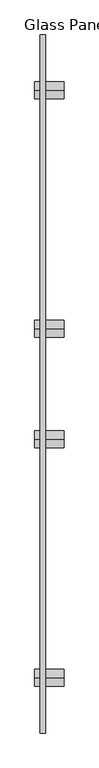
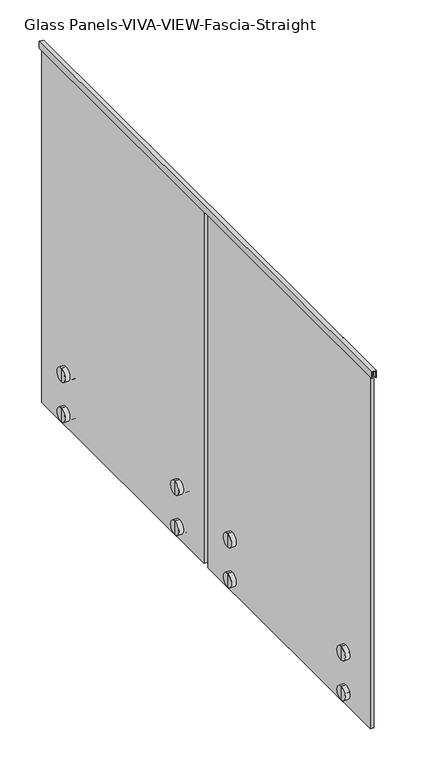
"""IFC4 building model written with IfcOpenShell, lengths in millimetres: railing geometry, Glass Panels-VIVA-VIEW-Fascia-Straight."""

from ifc_helpers import new_model, si_unit, frame, origin, place, context, project, spatial, polyline, circle_curve, outline, extrude, source, transform, mapped, element, save
from ifc_brep_helpers import plane_surface, cylinder_surface, advanced_brep


def glass_panels_viva_view_fascia_straight_721f6f93(model_context):
    return source(origin(), model_context, "Body", "SolidModel", [
        extrude(outline(polyline([(4140.2, 38813.9986652), (4140.2, 38798.1236652), (4114.8, 38798.1236652), (4114.8, 38799.7111652), (4138.6125, 38799.7111652), (4138.6125, 38812.4111652), (4114.8, 38812.4111652), (4114.8, 38813.9986652), (4140.2, 38813.9986652)])), frame((0.0, -1445.1241246, 0.0), z_axis=(0.0, 1.0, 0.0), x_axis=(0.0, 0.0, 1.0)), (0.0, 0.0, 1.0), 2082.8),
        advanced_brep(
        [(38782.2489592, -238.241078, 2794.0), (38782.2489592, -238.241078, 2819.4), (38782.2489592, -238.241078, 2844.8), (38799.7114592, -238.241078, 2794.0), (38799.7114592, -238.241078, 2844.8), (38799.7114592, -238.241078, 2813.685), (38799.7114592, -238.241078, 2825.115), (38812.4114592, -238.241078, 2813.685), (38812.4114592, -238.241078, 2825.115), (38812.4114592, -238.241078, 2794.0), (38812.4114592, -238.241078, 2844.8), (38869.5613122, -238.241078, 2794.0), (38869.5613122, -238.241078, 2844.8), (38869.5613122, -238.241078, 2819.4)],
        [
            (0, 1),
            (1, 2),
            (2, 0, circle_curve(frame((38782.2489592, -238.241078, 2819.4), z_axis=(-1.0, 0.0, 0.0), x_axis=(0.0, 0.0, 1.0)), 25.4)),
            (0, 2, circle_curve(frame((38782.2489592, -238.241078, 2819.4), z_axis=(-1.0, 0.0, 0.0), x_axis=(0.0, 0.0, 1.0)), 25.4)),
            (3, 0),
            (2, 4),
            (4, 3, circle_curve(frame((38799.7114592, -238.241078, 2819.4), z_axis=(-1.0, 0.0, 0.0), x_axis=(0.0, 0.0, 1.0)), 25.4)),
            (3, 4, circle_curve(frame((38799.7114592, -238.241078, 2819.4), z_axis=(-1.0, 0.0, 0.0), x_axis=(0.0, 0.0, 1.0)), 25.4)),
            (5, 3),
            (4, 6),
            (6, 5, circle_curve(frame((38799.7114592, -238.241078, 2819.4), z_axis=(-1.0, 0.0, 0.0), x_axis=(0.0, 0.0, 1.0)), 5.715)),
            (5, 6, circle_curve(frame((38799.7114592, -238.241078, 2819.4), z_axis=(-1.0, 0.0, 0.0), x_axis=(0.0, 0.0, 1.0)), 5.715)),
            (7, 5),
            (6, 8),
            (8, 7, circle_curve(frame((38812.4114592, -238.241078, 2819.4), z_axis=(-1.0, 0.0, 0.0), x_axis=(0.0, 0.0, 1.0)), 5.715)),
            (7, 8, circle_curve(frame((38812.4114592, -238.241078, 2819.4), z_axis=(-1.0, 0.0, 0.0), x_axis=(0.0, 0.0, 1.0)), 5.715)),
            (9, 7),
            (8, 10),
            (10, 9, circle_curve(frame((38812.4114592, -238.241078, 2819.4), z_axis=(-1.0, 0.0, 0.0), x_axis=(0.0, 0.0, 1.0)), 25.4)),
            (9, 10, circle_curve(frame((38812.4114592, -238.241078, 2819.4), z_axis=(-1.0, 0.0, 0.0), x_axis=(0.0, 0.0, 1.0)), 25.4)),
            (11, 9),
            (10, 12),
            (12, 11, circle_curve(frame((38869.5613122, -238.241078, 2819.4), z_axis=(-1.0, 0.0, 0.0), x_axis=(0.0, 0.0, 1.0)), 25.4)),
            (11, 12, circle_curve(frame((38869.5613122, -238.241078, 2819.4), z_axis=(-1.0, 0.0, 0.0), x_axis=(0.0, 0.0, 1.0)), 25.4)),
            (13, 11),
            (12, 13),
        ],
        [
            plane_surface(frame((38782.2489592, -238.241078, 2819.4), z_axis=(-1.0, 0.0, 0.0), x_axis=(0.0, 0.0, 1.0))),
            cylinder_surface(frame((38713.9863122, -238.241078, 2819.4), z_axis=(1.0, 0.0, 0.0), x_axis=(0.0, 0.0, 1.0)), 25.4),
            plane_surface(frame((38799.7114592, -238.241078, 2819.4), z_axis=(1.0, 0.0, 0.0), x_axis=(0.0, 0.0, 1.0))),
            cylinder_surface(frame((38713.9863122, -238.241078, 2819.4), z_axis=(1.0, 0.0, 0.0), x_axis=(0.0, 0.0, 1.0)), 5.715),
            plane_surface(frame((38812.4114592, -238.241078, 2819.4), z_axis=(-1.0, 0.0, 0.0), x_axis=(0.0, 0.0, 1.0))),
            plane_surface(frame((38869.5613122, -238.241078, 2819.4), z_axis=(1.0, 0.0, 0.0), x_axis=(0.0, 0.0, 1.0))),
        ],
        [
            (0, [[1, 2, 3]]),
            (0, [[-2, -1, 4]]),
            (1, [[5, -3, 6, 7]]),
            (1, [[-6, -4, -5, 8]]),
            (2, [[9, -7, 10, 11]]),
            (2, [[-10, -8, -9, 12]]),
            (3, [[13, -11, 14, 15]]),
            (3, [[-14, -12, -13, 16]]),
            (4, [[17, -15, 18, 19]]),
            (4, [[-18, -16, -17, 20]]),
            (1, [[21, -19, 22, 23]]),
            (1, [[-22, -20, -21, 24]]),
            (5, [[25, -23, 26]]),
            (5, [[-26, -24, -25]]),
        ],
    ),
        advanced_brep(
        [(38799.7114592, -238.241078, 2966.085), (38799.7114592, -238.241078, 2946.4), (38799.7114592, -238.241078, 2997.2), (38799.7114592, -238.241078, 2977.515), (38812.4114592, -238.241078, 2966.085), (38812.4114592, -238.241078, 2977.515), (38812.4114592, -238.241078, 2946.4), (38812.4114592, -238.241078, 2997.2), (38869.5613122, -238.241078, 2946.4), (38869.5613122, -238.241078, 2997.2), (38869.5613122, -238.241078, 2971.8), (38782.2489592, -238.241078, 2946.4), (38782.2489592, -238.241078, 2971.8), (38782.2489592, -238.241078, 2997.2)],
        [
            (0, 1),
            (1, 2, circle_curve(frame((38799.7114592, -238.241078, 2971.8), z_axis=(1.0, 0.0, 0.0), x_axis=(0.0, 0.0, 1.0)), 25.4)),
            (2, 3),
            (3, 0, circle_curve(frame((38799.7114592, -238.241078, 2971.8), z_axis=(-1.0, 0.0, 0.0), x_axis=(0.0, 0.0, 1.0)), 5.715)),
            (2, 1, circle_curve(frame((38799.7114592, -238.241078, 2971.8), z_axis=(1.0, 0.0, 0.0), x_axis=(0.0, 0.0, 1.0)), 25.4)),
            (0, 3, circle_curve(frame((38799.7114592, -238.241078, 2971.8), z_axis=(-1.0, 0.0, 0.0), x_axis=(0.0, 0.0, 1.0)), 5.715)),
            (4, 0),
            (3, 5),
            (5, 4, circle_curve(frame((38812.4114592, -238.241078, 2971.8), z_axis=(-1.0, 0.0, 0.0), x_axis=(0.0, 0.0, 1.0)), 5.715)),
            (4, 5, circle_curve(frame((38812.4114592, -238.241078, 2971.8), z_axis=(-1.0, 0.0, 0.0), x_axis=(0.0, 0.0, 1.0)), 5.715)),
            (6, 4),
            (5, 7),
            (7, 6, circle_curve(frame((38812.4114592, -238.241078, 2971.8), z_axis=(-1.0, 0.0, 0.0), x_axis=(0.0, 0.0, 1.0)), 25.4)),
            (6, 7, circle_curve(frame((38812.4114592, -238.241078, 2971.8), z_axis=(-1.0, 0.0, 0.0), x_axis=(0.0, 0.0, 1.0)), 25.4)),
            (8, 6),
            (7, 9),
            (9, 8, circle_curve(frame((38869.5613122, -238.241078, 2971.8), z_axis=(-1.0, 0.0, 0.0), x_axis=(0.0, 0.0, 1.0)), 25.4)),
            (8, 9, circle_curve(frame((38869.5613122, -238.241078, 2971.8), z_axis=(-1.0, 0.0, 0.0), x_axis=(0.0, 0.0, 1.0)), 25.4)),
            (10, 8),
            (9, 10),
            (11, 12),
            (12, 13),
            (13, 11, circle_curve(frame((38782.2489592, -238.241078, 2971.8), z_axis=(-1.0, 0.0, 0.0), x_axis=(0.0, 0.0, 1.0)), 25.4)),
            (11, 13, circle_curve(frame((38782.2489592, -238.241078, 2971.8), z_axis=(-1.0, 0.0, 0.0), x_axis=(0.0, 0.0, 1.0)), 25.4)),
            (1, 11),
            (13, 2),
        ],
        [
            plane_surface(frame((38799.7114592, -238.241078, 2971.8), z_axis=(1.0, 0.0, 0.0), x_axis=(0.0, 0.0, 1.0))),
            cylinder_surface(frame((38713.9863122, -238.241078, 2971.8), z_axis=(1.0, 0.0, 0.0), x_axis=(0.0, 0.0, 1.0)), 5.715),
            plane_surface(frame((38812.4114592, -238.241078, 2971.8), z_axis=(-1.0, 0.0, 0.0), x_axis=(0.0, 0.0, 1.0))),
            cylinder_surface(frame((38713.9863122, -238.241078, 2971.8), z_axis=(1.0, 0.0, 0.0), x_axis=(0.0, 0.0, 1.0)), 25.4),
            plane_surface(frame((38869.5613122, -238.241078, 2971.8), z_axis=(1.0, 0.0, 0.0), x_axis=(0.0, 0.0, 1.0))),
            plane_surface(frame((38782.2489592, -238.241078, 2971.8), z_axis=(-1.0, 0.0, 0.0), x_axis=(0.0, 0.0, 1.0))),
        ],
        [
            (0, [[1, 2, 3, 4]]),
            (0, [[-3, 5, -1, 6]]),
            (1, [[7, -4, 8, 9]]),
            (1, [[-8, -6, -7, 10]]),
            (2, [[11, -9, 12, 13]]),
            (2, [[-12, -10, -11, 14]]),
            (3, [[15, -13, 16, 17]]),
            (3, [[-16, -14, -15, 18]]),
            (4, [[19, -17, 20]]),
            (4, [[-20, -18, -19]]),
            (5, [[21, 22, 23]]),
            (5, [[-22, -21, 24]]),
            (3, [[25, -23, 26, -2]]),
            (3, [[-26, -24, -25, -5]]),
        ],
    ),
        advanced_brep(
        [(38782.2489592, 472.958922, 2794.0), (38782.2489592, 472.958922, 2819.4), (38782.2489592, 472.958922, 2844.8), (38799.7114592, 472.958922, 2794.0), (38799.7114592, 472.958922, 2844.8), (38799.7114592, 472.958922, 2813.685), (38799.7114592, 472.958922, 2825.115), (38812.4114592, 472.958922, 2813.685), (38812.4114592, 472.958922, 2825.115), (38812.4114592, 472.958922, 2794.0), (38812.4114592, 472.958922, 2844.8), (38869.5613122, 472.958922, 2794.0), (38869.5613122, 472.958922, 2844.8), (38869.5613122, 472.958922, 2819.4)],
        [
            (0, 1),
            (1, 2),
            (2, 0, circle_curve(frame((38782.2489592, 472.958922, 2819.4), z_axis=(-1.0, 0.0, 0.0), x_axis=(0.0, 0.0, 1.0)), 25.4)),
            (0, 2, circle_curve(frame((38782.2489592, 472.958922, 2819.4), z_axis=(-1.0, 0.0, 0.0), x_axis=(0.0, 0.0, 1.0)), 25.4)),
            (3, 0),
            (2, 4),
            (4, 3, circle_curve(frame((38799.7114592, 472.958922, 2819.4), z_axis=(-1.0, 0.0, 0.0), x_axis=(0.0, 0.0, 1.0)), 25.4)),
            (3, 4, circle_curve(frame((38799.7114592, 472.958922, 2819.4), z_axis=(-1.0, 0.0, 0.0), x_axis=(0.0, 0.0, 1.0)), 25.4)),
            (5, 3),
            (4, 6),
            (6, 5, circle_curve(frame((38799.7114592, 472.958922, 2819.4), z_axis=(-1.0, 0.0, 0.0), x_axis=(0.0, 0.0, 1.0)), 5.715)),
            (5, 6, circle_curve(frame((38799.7114592, 472.958922, 2819.4), z_axis=(-1.0, 0.0, 0.0), x_axis=(0.0, 0.0, 1.0)), 5.715)),
            (7, 5),
            (6, 8),
            (8, 7, circle_curve(frame((38812.4114592, 472.958922, 2819.4), z_axis=(-1.0, 0.0, 0.0), x_axis=(0.0, 0.0, 1.0)), 5.715)),
            (7, 8, circle_curve(frame((38812.4114592, 472.958922, 2819.4), z_axis=(-1.0, 0.0, 0.0), x_axis=(0.0, 0.0, 1.0)), 5.715)),
            (9, 7),
            (8, 10),
            (10, 9, circle_curve(frame((38812.4114592, 472.958922, 2819.4), z_axis=(-1.0, 0.0, 0.0), x_axis=(0.0, 0.0, 1.0)), 25.4)),
            (9, 10, circle_curve(frame((38812.4114592, 472.958922, 2819.4), z_axis=(-1.0, 0.0, 0.0), x_axis=(0.0, 0.0, 1.0)), 25.4)),
            (11, 9),
            (10, 12),
            (12, 11, circle_curve(frame((38869.5613122, 472.958922, 2819.4), z_axis=(-1.0, 0.0, 0.0), x_axis=(0.0, 0.0, 1.0)), 25.4)),
            (11, 12, circle_curve(frame((38869.5613122, 472.958922, 2819.4), z_axis=(-1.0, 0.0, 0.0), x_axis=(0.0, 0.0, 1.0)), 25.4)),
            (13, 11),
            (12, 13),
        ],
        [
            plane_surface(frame((38782.2489592, 472.958922, 2819.4), z_axis=(-1.0, 0.0, 0.0), x_axis=(0.0, 0.0, 1.0))),
            cylinder_surface(frame((38713.9863122, 472.958922, 2819.4), z_axis=(1.0, 0.0, 0.0), x_axis=(0.0, 0.0, 1.0)), 25.4),
            plane_surface(frame((38799.7114592, 472.958922, 2819.4), z_axis=(1.0, 0.0, 0.0), x_axis=(0.0, 0.0, 1.0))),
            cylinder_surface(frame((38713.9863122, 472.958922, 2819.4), z_axis=(1.0, 0.0, 0.0), x_axis=(0.0, 0.0, 1.0)), 5.715),
            plane_surface(frame((38812.4114592, 472.958922, 2819.4), z_axis=(-1.0, 0.0, 0.0), x_axis=(0.0, 0.0, 1.0))),
            plane_surface(frame((38869.5613122, 472.958922, 2819.4), z_axis=(1.0, 0.0, 0.0), x_axis=(0.0, 0.0, 1.0))),
        ],
        [
            (0, [[1, 2, 3]]),
            (0, [[-2, -1, 4]]),
            (1, [[5, -3, 6, 7]]),
            (1, [[-6, -4, -5, 8]]),
            (2, [[9, -7, 10, 11]]),
            (2, [[-10, -8, -9, 12]]),
            (3, [[13, -11, 14, 15]]),
            (3, [[-14, -12, -13, 16]]),
            (4, [[17, -15, 18, 19]]),
            (4, [[-18, -16, -17, 20]]),
            (1, [[21, -19, 22, 23]]),
            (1, [[-22, -20, -21, 24]]),
            (5, [[25, -23, 26]]),
            (5, [[-26, -24, -25]]),
        ],
    ),
        advanced_brep(
        [(38799.7114592, 472.958922, 2966.085), (38799.7114592, 472.958922, 2946.4), (38799.7114592, 472.958922, 2997.2), (38799.7114592, 472.958922, 2977.515), (38812.4114592, 472.958922, 2966.085), (38812.4114592, 472.958922, 2977.515), (38812.4114592, 472.958922, 2946.4), (38812.4114592, 472.958922, 2997.2), (38869.5613122, 472.958922, 2946.4), (38869.5613122, 472.958922, 2997.2), (38869.5613122, 472.958922, 2971.8), (38782.2489592, 472.958922, 2946.4), (38782.2489592, 472.958922, 2971.8), (38782.2489592, 472.958922, 2997.2)],
        [
            (0, 1),
            (1, 2, circle_curve(frame((38799.7114592, 472.958922, 2971.8), z_axis=(1.0, 0.0, 0.0), x_axis=(0.0, 0.0, 1.0)), 25.4)),
            (2, 3),
            (3, 0, circle_curve(frame((38799.7114592, 472.958922, 2971.8), z_axis=(-1.0, 0.0, 0.0), x_axis=(0.0, 0.0, 1.0)), 5.715)),
            (2, 1, circle_curve(frame((38799.7114592, 472.958922, 2971.8), z_axis=(1.0, 0.0, 0.0), x_axis=(0.0, 0.0, 1.0)), 25.4)),
            (0, 3, circle_curve(frame((38799.7114592, 472.958922, 2971.8), z_axis=(-1.0, 0.0, 0.0), x_axis=(0.0, 0.0, 1.0)), 5.715)),
            (4, 0),
            (3, 5),
            (5, 4, circle_curve(frame((38812.4114592, 472.958922, 2971.8), z_axis=(-1.0, 0.0, 0.0), x_axis=(0.0, 0.0, 1.0)), 5.715)),
            (4, 5, circle_curve(frame((38812.4114592, 472.958922, 2971.8), z_axis=(-1.0, 0.0, 0.0), x_axis=(0.0, 0.0, 1.0)), 5.715)),
            (6, 4),
            (5, 7),
            (7, 6, circle_curve(frame((38812.4114592, 472.958922, 2971.8), z_axis=(-1.0, 0.0, 0.0), x_axis=(0.0, 0.0, 1.0)), 25.4)),
            (6, 7, circle_curve(frame((38812.4114592, 472.958922, 2971.8), z_axis=(-1.0, 0.0, 0.0), x_axis=(0.0, 0.0, 1.0)), 25.4)),
            (8, 6),
            (7, 9),
            (9, 8, circle_curve(frame((38869.5613122, 472.958922, 2971.8), z_axis=(-1.0, 0.0, 0.0), x_axis=(0.0, 0.0, 1.0)), 25.4)),
            (8, 9, circle_curve(frame((38869.5613122, 472.958922, 2971.8), z_axis=(-1.0, 0.0, 0.0), x_axis=(0.0, 0.0, 1.0)), 25.4)),
            (10, 8),
            (9, 10),
            (11, 12),
            (12, 13),
            (13, 11, circle_curve(frame((38782.2489592, 472.958922, 2971.8), z_axis=(-1.0, 0.0, 0.0), x_axis=(0.0, 0.0, 1.0)), 25.4)),
            (11, 13, circle_curve(frame((38782.2489592, 472.958922, 2971.8), z_axis=(-1.0, 0.0, 0.0), x_axis=(0.0, 0.0, 1.0)), 25.4)),
            (1, 11),
            (13, 2),
        ],
        [
            plane_surface(frame((38799.7114592, 472.958922, 2971.8), z_axis=(1.0, 0.0, 0.0), x_axis=(0.0, 0.0, 1.0))),
            cylinder_surface(frame((38713.9863122, 472.958922, 2971.8), z_axis=(1.0, 0.0, 0.0), x_axis=(0.0, 0.0, 1.0)), 5.715),
            plane_surface(frame((38812.4114592, 472.958922, 2971.8), z_axis=(-1.0, 0.0, 0.0), x_axis=(0.0, 0.0, 1.0))),
            cylinder_surface(frame((38713.9863122, 472.958922, 2971.8), z_axis=(1.0, 0.0, 0.0), x_axis=(0.0, 0.0, 1.0)), 25.4),
            plane_surface(frame((38869.5613122, 472.958922, 2971.8), z_axis=(1.0, 0.0, 0.0), x_axis=(0.0, 0.0, 1.0))),
            plane_surface(frame((38782.2489592, 472.958922, 2971.8), z_axis=(-1.0, 0.0, 0.0), x_axis=(0.0, 0.0, 1.0))),
        ],
        [
            (0, [[1, 2, 3, 4]]),
            (0, [[-3, 5, -1, 6]]),
            (1, [[7, -4, 8, 9]]),
            (1, [[-8, -6, -7, 10]]),
            (2, [[11, -9, 12, 13]]),
            (2, [[-12, -10, -11, 14]]),
            (3, [[15, -13, 16, 17]]),
            (3, [[-16, -14, -15, 18]]),
            (4, [[19, -17, 20]]),
            (4, [[-20, -18, -19]]),
            (5, [[21, 22, 23]]),
            (5, [[-22, -21, 24]]),
            (3, [[25, -23, 26, -2]]),
            (3, [[-26, -24, -25, -5]]),
        ],
    ),
        extrude(outline(polyline([(38812.4111652, -390.641078), (38799.7111652, -390.641078), (38799.7111652, 625.358922), (38812.4111652, 625.358922), (38812.4111652, -390.641078)])), frame((0.0, 0.0, 2768.6), z_axis=(0.0, 0.0, 1.0), x_axis=(1.0, 0.0, 0.0)), (0.0, 0.0, 1.0), 1370.0125),
        advanced_brep(
        [(38782.2489592, -1279.641078, 2794.0), (38782.2489592, -1279.641078, 2819.4), (38782.2489592, -1279.641078, 2844.8), (38799.7114592, -1279.641078, 2794.0), (38799.7114592, -1279.641078, 2844.8), (38799.7114592, -1279.641078, 2813.685), (38799.7114592, -1279.641078, 2825.115), (38812.4114592, -1279.641078, 2813.685), (38812.4114592, -1279.641078, 2825.115), (38812.4114592, -1279.641078, 2794.0), (38812.4114592, -1279.641078, 2844.8), (38869.5613122, -1279.641078, 2794.0), (38869.5613122, -1279.641078, 2844.8), (38869.5613122, -1279.641078, 2819.4)],
        [
            (0, 1),
            (1, 2),
            (2, 0, circle_curve(frame((38782.2489592, -1279.641078, 2819.4), z_axis=(-1.0, 0.0, 0.0), x_axis=(0.0, 0.0, 1.0)), 25.4)),
            (0, 2, circle_curve(frame((38782.2489592, -1279.641078, 2819.4), z_axis=(-1.0, 0.0, 0.0), x_axis=(0.0, 0.0, 1.0)), 25.4)),
            (3, 0),
            (2, 4),
            (4, 3, circle_curve(frame((38799.7114592, -1279.641078, 2819.4), z_axis=(-1.0, 0.0, 0.0), x_axis=(0.0, 0.0, 1.0)), 25.4)),
            (3, 4, circle_curve(frame((38799.7114592, -1279.641078, 2819.4), z_axis=(-1.0, 0.0, 0.0), x_axis=(0.0, 0.0, 1.0)), 25.4)),
            (5, 3),
            (4, 6),
            (6, 5, circle_curve(frame((38799.7114592, -1279.641078, 2819.4), z_axis=(-1.0, 0.0, 0.0), x_axis=(0.0, 0.0, 1.0)), 5.715)),
            (5, 6, circle_curve(frame((38799.7114592, -1279.641078, 2819.4), z_axis=(-1.0, 0.0, 0.0), x_axis=(0.0, 0.0, 1.0)), 5.715)),
            (7, 5),
            (6, 8),
            (8, 7, circle_curve(frame((38812.4114592, -1279.641078, 2819.4), z_axis=(-1.0, 0.0, 0.0), x_axis=(0.0, 0.0, 1.0)), 5.715)),
            (7, 8, circle_curve(frame((38812.4114592, -1279.641078, 2819.4), z_axis=(-1.0, 0.0, 0.0), x_axis=(0.0, 0.0, 1.0)), 5.715)),
            (9, 7),
            (8, 10),
            (10, 9, circle_curve(frame((38812.4114592, -1279.641078, 2819.4), z_axis=(-1.0, 0.0, 0.0), x_axis=(0.0, 0.0, 1.0)), 25.4)),
            (9, 10, circle_curve(frame((38812.4114592, -1279.641078, 2819.4), z_axis=(-1.0, 0.0, 0.0), x_axis=(0.0, 0.0, 1.0)), 25.4)),
            (11, 9),
            (10, 12),
            (12, 11, circle_curve(frame((38869.5613122, -1279.641078, 2819.4), z_axis=(-1.0, 0.0, 0.0), x_axis=(0.0, 0.0, 1.0)), 25.4)),
            (11, 12, circle_curve(frame((38869.5613122, -1279.641078, 2819.4), z_axis=(-1.0, 0.0, 0.0), x_axis=(0.0, 0.0, 1.0)), 25.4)),
            (13, 11),
            (12, 13),
        ],
        [
            plane_surface(frame((38782.2489592, -1279.641078, 2819.4), z_axis=(-1.0, 0.0, 0.0), x_axis=(0.0, 0.0, 1.0))),
            cylinder_surface(frame((38713.9863122, -1279.641078, 2819.4), z_axis=(1.0, 0.0, 0.0), x_axis=(0.0, 0.0, 1.0)), 25.4),
            plane_surface(frame((38799.7114592, -1279.641078, 2819.4), z_axis=(1.0, 0.0, 0.0), x_axis=(0.0, 0.0, 1.0))),
            cylinder_surface(frame((38713.9863122, -1279.641078, 2819.4), z_axis=(1.0, 0.0, 0.0), x_axis=(0.0, 0.0, 1.0)), 5.715),
            plane_surface(frame((38812.4114592, -1279.641078, 2819.4), z_axis=(-1.0, 0.0, 0.0), x_axis=(0.0, 0.0, 1.0))),
            plane_surface(frame((38869.5613122, -1279.641078, 2819.4), z_axis=(1.0, 0.0, 0.0), x_axis=(0.0, 0.0, 1.0))),
        ],
        [
            (0, [[1, 2, 3]]),
            (0, [[-2, -1, 4]]),
            (1, [[5, -3, 6, 7]]),
            (1, [[-6, -4, -5, 8]]),
            (2, [[9, -7, 10, 11]]),
            (2, [[-10, -8, -9, 12]]),
            (3, [[13, -11, 14, 15]]),
            (3, [[-14, -12, -13, 16]]),
            (4, [[17, -15, 18, 19]]),
            (4, [[-18, -16, -17, 20]]),
            (1, [[21, -19, 22, 23]]),
            (1, [[-22, -20, -21, 24]]),
            (5, [[25, -23, 26]]),
            (5, [[-26, -24, -25]]),
        ],
    ),
        advanced_brep(
        [(38799.7114592, -1279.641078, 2966.085), (38799.7114592, -1279.641078, 2946.4), (38799.7114592, -1279.641078, 2997.2), (38799.7114592, -1279.641078, 2977.515), (38812.4114592, -1279.641078, 2966.085), (38812.4114592, -1279.641078, 2977.515), (38812.4114592, -1279.641078, 2946.4), (38812.4114592, -1279.641078, 2997.2), (38869.5613122, -1279.641078, 2946.4), (38869.5613122, -1279.641078, 2997.2), (38869.5613122, -1279.641078, 2971.8), (38782.2489592, -1279.641078, 2946.4), (38782.2489592, -1279.641078, 2971.8), (38782.2489592, -1279.641078, 2997.2)],
        [
            (0, 1),
            (1, 2, circle_curve(frame((38799.7114592, -1279.641078, 2971.8), z_axis=(1.0, 0.0, 0.0), x_axis=(0.0, 0.0, 1.0)), 25.4)),
            (2, 3),
            (3, 0, circle_curve(frame((38799.7114592, -1279.641078, 2971.8), z_axis=(-1.0, 0.0, 0.0), x_axis=(0.0, 0.0, 1.0)), 5.715)),
            (2, 1, circle_curve(frame((38799.7114592, -1279.641078, 2971.8), z_axis=(1.0, 0.0, 0.0), x_axis=(0.0, 0.0, 1.0)), 25.4)),
            (0, 3, circle_curve(frame((38799.7114592, -1279.641078, 2971.8), z_axis=(-1.0, 0.0, 0.0), x_axis=(0.0, 0.0, 1.0)), 5.715)),
            (4, 0),
            (3, 5),
            (5, 4, circle_curve(frame((38812.4114592, -1279.641078, 2971.8), z_axis=(-1.0, 0.0, 0.0), x_axis=(0.0, 0.0, 1.0)), 5.715)),
            (4, 5, circle_curve(frame((38812.4114592, -1279.641078, 2971.8), z_axis=(-1.0, 0.0, 0.0), x_axis=(0.0, 0.0, 1.0)), 5.715)),
            (6, 4),
            (5, 7),
            (7, 6, circle_curve(frame((38812.4114592, -1279.641078, 2971.8), z_axis=(-1.0, 0.0, 0.0), x_axis=(0.0, 0.0, 1.0)), 25.4)),
            (6, 7, circle_curve(frame((38812.4114592, -1279.641078, 2971.8), z_axis=(-1.0, 0.0, 0.0), x_axis=(0.0, 0.0, 1.0)), 25.4)),
            (8, 6),
            (7, 9),
            (9, 8, circle_curve(frame((38869.5613122, -1279.641078, 2971.8), z_axis=(-1.0, 0.0, 0.0), x_axis=(0.0, 0.0, 1.0)), 25.4)),
            (8, 9, circle_curve(frame((38869.5613122, -1279.641078, 2971.8), z_axis=(-1.0, 0.0, 0.0), x_axis=(0.0, 0.0, 1.0)), 25.4)),
            (10, 8),
            (9, 10),
            (11, 12),
            (12, 13),
            (13, 11, circle_curve(frame((38782.2489592, -1279.641078, 2971.8), z_axis=(-1.0, 0.0, 0.0), x_axis=(0.0, 0.0, 1.0)), 25.4)),
            (11, 13, circle_curve(frame((38782.2489592, -1279.641078, 2971.8), z_axis=(-1.0, 0.0, 0.0), x_axis=(0.0, 0.0, 1.0)), 25.4)),
            (1, 11),
            (13, 2),
        ],
        [
            plane_surface(frame((38799.7114592, -1279.641078, 2971.8), z_axis=(1.0, 0.0, 0.0), x_axis=(0.0, 0.0, 1.0))),
            cylinder_surface(frame((38713.9863122, -1279.641078, 2971.8), z_axis=(1.0, 0.0, 0.0), x_axis=(0.0, 0.0, 1.0)), 5.715),
            plane_surface(frame((38812.4114592, -1279.641078, 2971.8), z_axis=(-1.0, 0.0, 0.0), x_axis=(0.0, 0.0, 1.0))),
            cylinder_surface(frame((38713.9863122, -1279.641078, 2971.8), z_axis=(1.0, 0.0, 0.0), x_axis=(0.0, 0.0, 1.0)), 25.4),
            plane_surface(frame((38869.5613122, -1279.641078, 2971.8), z_axis=(1.0, 0.0, 0.0), x_axis=(0.0, 0.0, 1.0))),
            plane_surface(frame((38782.2489592, -1279.641078, 2971.8), z_axis=(-1.0, 0.0, 0.0), x_axis=(0.0, 0.0, 1.0))),
        ],
        [
            (0, [[1, 2, 3, 4]]),
            (0, [[-3, 5, -1, 6]]),
            (1, [[7, -4, 8, 9]]),
            (1, [[-8, -6, -7, 10]]),
            (2, [[11, -9, 12, 13]]),
            (2, [[-12, -10, -11, 14]]),
            (3, [[15, -13, 16, 17]]),
            (3, [[-16, -14, -15, 18]]),
            (4, [[19, -17, 20]]),
            (4, [[-20, -18, -19]]),
            (5, [[21, 22, 23]]),
            (5, [[-22, -21, 24]]),
            (3, [[25, -23, 26, -2]]),
            (3, [[-26, -24, -25, -5]]),
        ],
    ),
        advanced_brep(
        [(38782.2489592, -568.441078, 2794.0), (38782.2489592, -568.441078, 2819.4), (38782.2489592, -568.441078, 2844.8), (38799.7114592, -568.441078, 2794.0), (38799.7114592, -568.441078, 2844.8), (38799.7114592, -568.441078, 2813.685), (38799.7114592, -568.441078, 2825.115), (38812.4114592, -568.441078, 2813.685), (38812.4114592, -568.441078, 2825.115), (38812.4114592, -568.441078, 2794.0), (38812.4114592, -568.441078, 2844.8), (38869.5613122, -568.441078, 2794.0), (38869.5613122, -568.441078, 2844.8), (38869.5613122, -568.441078, 2819.4)],
        [
            (0, 1),
            (1, 2),
            (2, 0, circle_curve(frame((38782.2489592, -568.441078, 2819.4), z_axis=(-1.0, 0.0, 0.0), x_axis=(0.0, 0.0, 1.0)), 25.4)),
            (0, 2, circle_curve(frame((38782.2489592, -568.441078, 2819.4), z_axis=(-1.0, 0.0, 0.0), x_axis=(0.0, 0.0, 1.0)), 25.4)),
            (3, 0),
            (2, 4),
            (4, 3, circle_curve(frame((38799.7114592, -568.441078, 2819.4), z_axis=(-1.0, 0.0, 0.0), x_axis=(0.0, 0.0, 1.0)), 25.4)),
            (3, 4, circle_curve(frame((38799.7114592, -568.441078, 2819.4), z_axis=(-1.0, 0.0, 0.0), x_axis=(0.0, 0.0, 1.0)), 25.4)),
            (5, 3),
            (4, 6),
            (6, 5, circle_curve(frame((38799.7114592, -568.441078, 2819.4), z_axis=(-1.0, 0.0, 0.0), x_axis=(0.0, 0.0, 1.0)), 5.715)),
            (5, 6, circle_curve(frame((38799.7114592, -568.441078, 2819.4), z_axis=(-1.0, 0.0, 0.0), x_axis=(0.0, 0.0, 1.0)), 5.715)),
            (7, 5),
            (6, 8),
            (8, 7, circle_curve(frame((38812.4114592, -568.441078, 2819.4), z_axis=(-1.0, 0.0, 0.0), x_axis=(0.0, 0.0, 1.0)), 5.715)),
            (7, 8, circle_curve(frame((38812.4114592, -568.441078, 2819.4), z_axis=(-1.0, 0.0, 0.0), x_axis=(0.0, 0.0, 1.0)), 5.715)),
            (9, 7),
            (8, 10),
            (10, 9, circle_curve(frame((38812.4114592, -568.441078, 2819.4), z_axis=(-1.0, 0.0, 0.0), x_axis=(0.0, 0.0, 1.0)), 25.4)),
            (9, 10, circle_curve(frame((38812.4114592, -568.441078, 2819.4), z_axis=(-1.0, 0.0, 0.0), x_axis=(0.0, 0.0, 1.0)), 25.4)),
            (11, 9),
            (10, 12),
            (12, 11, circle_curve(frame((38869.5613122, -568.441078, 2819.4), z_axis=(-1.0, 0.0, 0.0), x_axis=(0.0, 0.0, 1.0)), 25.4)),
            (11, 12, circle_curve(frame((38869.5613122, -568.441078, 2819.4), z_axis=(-1.0, 0.0, 0.0), x_axis=(0.0, 0.0, 1.0)), 25.4)),
            (13, 11),
            (12, 13),
        ],
        [
            plane_surface(frame((38782.2489592, -568.441078, 2819.4), z_axis=(-1.0, 0.0, 0.0), x_axis=(0.0, 0.0, 1.0))),
            cylinder_surface(frame((38713.9863122, -568.441078, 2819.4), z_axis=(1.0, 0.0, 0.0), x_axis=(0.0, 0.0, 1.0)), 25.4),
            plane_surface(frame((38799.7114592, -568.441078, 2819.4), z_axis=(1.0, 0.0, 0.0), x_axis=(0.0, 0.0, 1.0))),
            cylinder_surface(frame((38713.9863122, -568.441078, 2819.4), z_axis=(1.0, 0.0, 0.0), x_axis=(0.0, 0.0, 1.0)), 5.715),
            plane_surface(frame((38812.4114592, -568.441078, 2819.4), z_axis=(-1.0, 0.0, 0.0), x_axis=(0.0, 0.0, 1.0))),
            plane_surface(frame((38869.5613122, -568.441078, 2819.4), z_axis=(1.0, 0.0, 0.0), x_axis=(0.0, 0.0, 1.0))),
        ],
        [
            (0, [[1, 2, 3]]),
            (0, [[-2, -1, 4]]),
            (1, [[5, -3, 6, 7]]),
            (1, [[-6, -4, -5, 8]]),
            (2, [[9, -7, 10, 11]]),
            (2, [[-10, -8, -9, 12]]),
            (3, [[13, -11, 14, 15]]),
            (3, [[-14, -12, -13, 16]]),
            (4, [[17, -15, 18, 19]]),
            (4, [[-18, -16, -17, 20]]),
            (1, [[21, -19, 22, 23]]),
            (1, [[-22, -20, -21, 24]]),
            (5, [[25, -23, 26]]),
            (5, [[-26, -24, -25]]),
        ],
    ),
        advanced_brep(
        [(38799.7114592, -568.441078, 2966.085), (38799.7114592, -568.441078, 2946.4), (38799.7114592, -568.441078, 2997.2), (38799.7114592, -568.441078, 2977.515), (38812.4114592, -568.441078, 2966.085), (38812.4114592, -568.441078, 2977.515), (38812.4114592, -568.441078, 2946.4), (38812.4114592, -568.441078, 2997.2), (38869.5613122, -568.441078, 2946.4), (38869.5613122, -568.441078, 2997.2), (38869.5613122, -568.441078, 2971.8), (38782.2489592, -568.441078, 2946.4), (38782.2489592, -568.441078, 2971.8), (38782.2489592, -568.441078, 2997.2)],
        [
            (0, 1),
            (1, 2, circle_curve(frame((38799.7114592, -568.441078, 2971.8), z_axis=(1.0, 0.0, 0.0), x_axis=(0.0, 0.0, 1.0)), 25.4)),
            (2, 3),
            (3, 0, circle_curve(frame((38799.7114592, -568.441078, 2971.8), z_axis=(-1.0, 0.0, 0.0), x_axis=(0.0, 0.0, 1.0)), 5.715)),
            (2, 1, circle_curve(frame((38799.7114592, -568.441078, 2971.8), z_axis=(1.0, 0.0, 0.0), x_axis=(0.0, 0.0, 1.0)), 25.4)),
            (0, 3, circle_curve(frame((38799.7114592, -568.441078, 2971.8), z_axis=(-1.0, 0.0, 0.0), x_axis=(0.0, 0.0, 1.0)), 5.715)),
            (4, 0),
            (3, 5),
            (5, 4, circle_curve(frame((38812.4114592, -568.441078, 2971.8), z_axis=(-1.0, 0.0, 0.0), x_axis=(0.0, 0.0, 1.0)), 5.715)),
            (4, 5, circle_curve(frame((38812.4114592, -568.441078, 2971.8), z_axis=(-1.0, 0.0, 0.0), x_axis=(0.0, 0.0, 1.0)), 5.715)),
            (6, 4),
            (5, 7),
            (7, 6, circle_curve(frame((38812.4114592, -568.441078, 2971.8), z_axis=(-1.0, 0.0, 0.0), x_axis=(0.0, 0.0, 1.0)), 25.4)),
            (6, 7, circle_curve(frame((38812.4114592, -568.441078, 2971.8), z_axis=(-1.0, 0.0, 0.0), x_axis=(0.0, 0.0, 1.0)), 25.4)),
            (8, 6),
            (7, 9),
            (9, 8, circle_curve(frame((38869.5613122, -568.441078, 2971.8), z_axis=(-1.0, 0.0, 0.0), x_axis=(0.0, 0.0, 1.0)), 25.4)),
            (8, 9, circle_curve(frame((38869.5613122, -568.441078, 2971.8), z_axis=(-1.0, 0.0, 0.0), x_axis=(0.0, 0.0, 1.0)), 25.4)),
            (10, 8),
            (9, 10),
            (11, 12),
            (12, 13),
            (13, 11, circle_curve(frame((38782.2489592, -568.441078, 2971.8), z_axis=(-1.0, 0.0, 0.0), x_axis=(0.0, 0.0, 1.0)), 25.4)),
            (11, 13, circle_curve(frame((38782.2489592, -568.441078, 2971.8), z_axis=(-1.0, 0.0, 0.0), x_axis=(0.0, 0.0, 1.0)), 25.4)),
            (1, 11),
            (13, 2),
        ],
        [
            plane_surface(frame((38799.7114592, -568.441078, 2971.8), z_axis=(1.0, 0.0, 0.0), x_axis=(0.0, 0.0, 1.0))),
            cylinder_surface(frame((38713.9863122, -568.441078, 2971.8), z_axis=(1.0, 0.0, 0.0), x_axis=(0.0, 0.0, 1.0)), 5.715),
            plane_surface(frame((38812.4114592, -568.441078, 2971.8), z_axis=(-1.0, 0.0, 0.0), x_axis=(0.0, 0.0, 1.0))),
            cylinder_surface(frame((38713.9863122, -568.441078, 2971.8), z_axis=(1.0, 0.0, 0.0), x_axis=(0.0, 0.0, 1.0)), 25.4),
            plane_surface(frame((38869.5613122, -568.441078, 2971.8), z_axis=(1.0, 0.0, 0.0), x_axis=(0.0, 0.0, 1.0))),
            plane_surface(frame((38782.2489592, -568.441078, 2971.8), z_axis=(-1.0, 0.0, 0.0), x_axis=(0.0, 0.0, 1.0))),
        ],
        [
            (0, [[1, 2, 3, 4]]),
            (0, [[-3, 5, -1, 6]]),
            (1, [[7, -4, 8, 9]]),
            (1, [[-8, -6, -7, 10]]),
            (2, [[11, -9, 12, 13]]),
            (2, [[-12, -10, -11, 14]]),
            (3, [[15, -13, 16, 17]]),
            (3, [[-16, -14, -15, 18]]),
            (4, [[19, -17, 20]]),
            (4, [[-20, -18, -19]]),
            (5, [[21, 22, 23]]),
            (5, [[-22, -21, 24]]),
            (3, [[25, -23, 26, -2]]),
            (3, [[-26, -24, -25, -5]]),
        ],
    ),
        extrude(outline(polyline([(38812.4111652, -1432.041078), (38799.7111652, -1432.041078), (38799.7111652, -416.041078), (38812.4111652, -416.041078), (38812.4111652, -1432.041078)])), frame((0.0, 0.0, 2768.6), z_axis=(0.0, 0.0, 1.0), x_axis=(1.0, 0.0, 0.0)), (0.0, 0.0, 1.0), 1370.0125),
    ])


if __name__ == "__main__":
    model = new_model("IFC4")
    model_context = context("Model", 3, world=origin())
    ifc_project = project(units=[si_unit("LENGTHUNIT", "METRE", prefix="MILLI")], contexts=[model_context])
    site = spatial("IfcSite", under=ifc_project)
    building = spatial("IfcBuilding", under=site)
    placement = place(None, origin())
    glass_panels_viva_view_fascia_straight_shape = glass_panels_viva_view_fascia_straight_721f6f93(model_context)
    element("IfcRailing", 1, ObjectType="Glass Panels-VIVA-VIEW-Fascia-Straight", at=placement, inside=building, context=model_context, shape_type="MappedRepresentation", body=[
        mapped(glass_panels_viva_view_fascia_straight_shape, transform((0.0, 0.0, 0.0), x_axis=(1.0, 0.0, 0.0), y_axis=(0.0, 1.0, 0.0), z_axis=(0.0, 0.0, 1.0))),
    ])
    save(model, "model.ifc")
